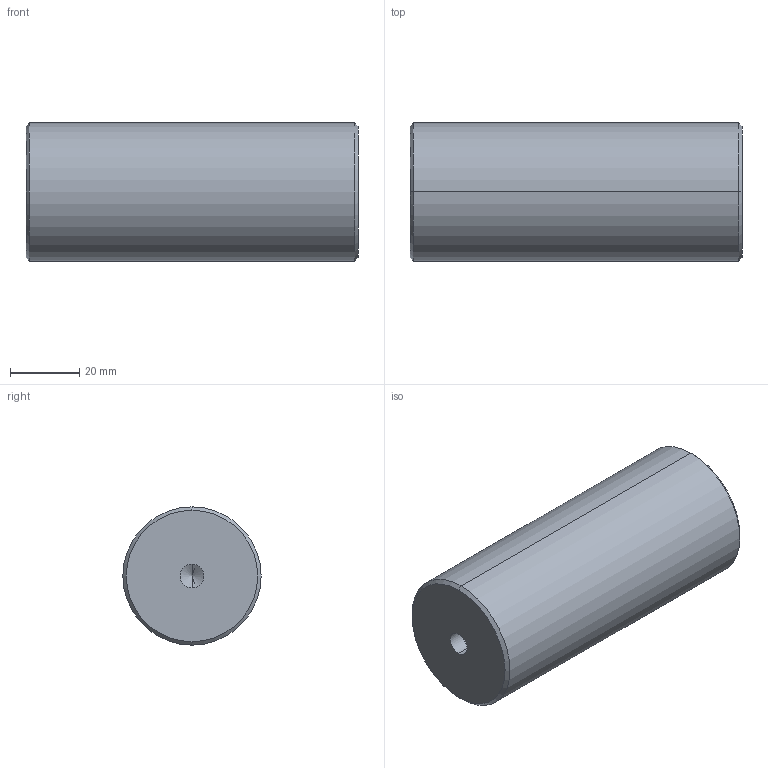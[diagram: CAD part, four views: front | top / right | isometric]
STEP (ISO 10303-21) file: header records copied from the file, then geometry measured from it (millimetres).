
FILE_DESCRIPTION (( 'STEP AP214' ), '1' );
FILE_NAME ('IMC-ES-40x96.STEP', '2023-01-16T11:42:42', ( '' ), ( '' ), 'SwSTEP 2.0', 'SolidWorks 2019', '' );
FILE_SCHEMA (( 'AUTOMOTIVE_DESIGN' ));
Length unit declared in the file: millimetre
Products named in the file (1): IMC-ES-40x96
Bounding box: 96 x 40 x 40 mm (x, y, z)
Volume: 118927.1 mm3; surface area: 15265.6 mm2
Topology: 1 solids, 1 shells, 16 faces, 34 edges, 18 vertices
Faces by surface type: cone 8, cylinder 6, plane 2
Entity records: 458 total; most frequent: DIRECTION 80, CARTESIAN_POINT 65, ORIENTED_EDGE 60, AXIS2_PLACEMENT_3D 33, EDGE_CURVE 30, VERTEX_POINT 18, EDGE_LOOP 18, CIRCLE 16
